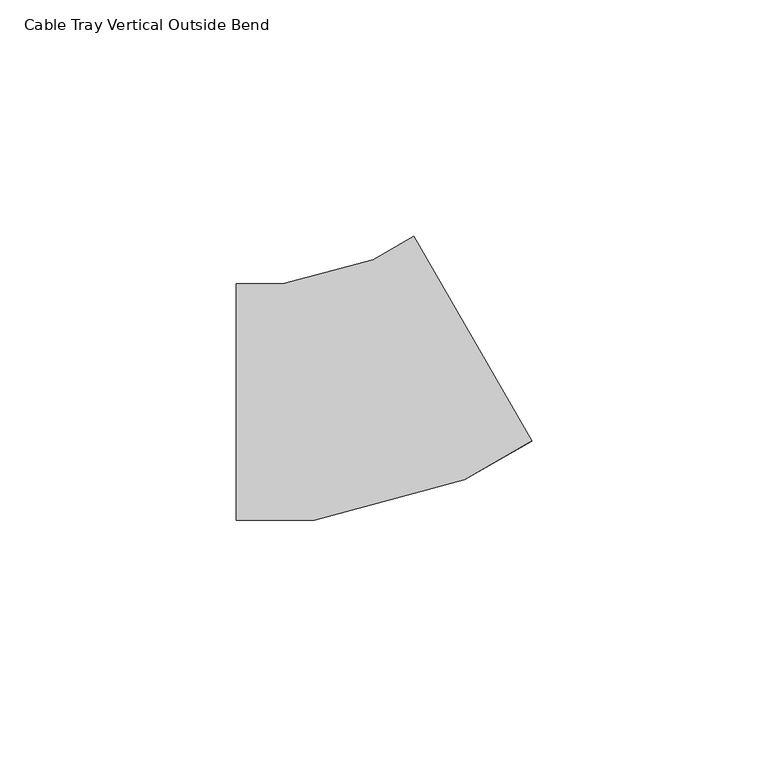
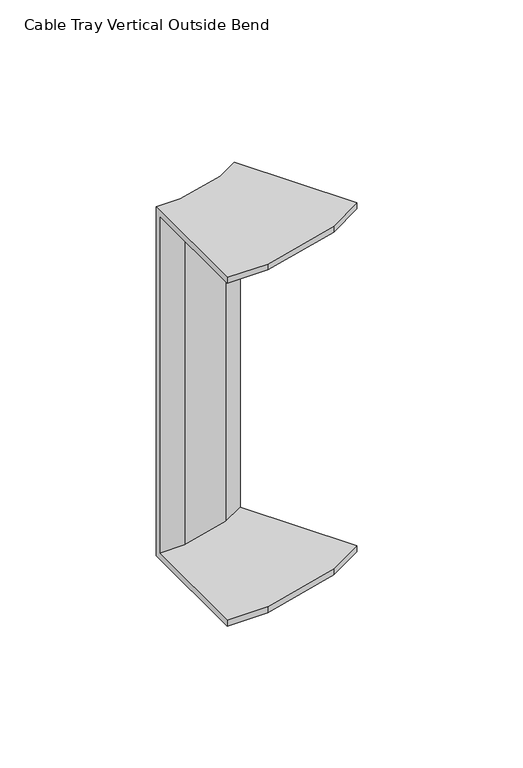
"""IFC4 building model written with IfcOpenShell, lengths in millimetres: cable carrier fitting geometry, Cable Tray Vertical Outside Bend : ELEC_ELV_CT_N2402."""

from ifc_helpers import new_model, si_unit, origin, place, context, project, spatial, faceted_brep, source, transform, mapped, element, save


def cable_tray_vertical_outside_bend_64dea95c(model_context):
    return source(origin(), model_context, "Body", "Brep", [
        faceted_brep([(-26.7949182, -25.0, 75.0), (-26.7949182, 25.0, 75.0), (-26.7949182, 25.0, -75.0), (-26.7949182, -25.0, -75.0), (-26.7949182, -25.0, -72.46), (-26.7949182, 22.46, -72.46), (-26.7949182, 22.46, 72.46), (-26.7949182, -25.0, 72.46), (35.7050797, -8.2531766, 75.0), (35.7050797, -8.2531766, 72.46), (11.9750805, 32.8483895, 72.46), (11.9750805, 32.8483895, -72.46), (35.7050797, -8.2531766, -72.46), (35.7050797, -8.2531766, -75.0), (10.7050805, 35.048094, -75.0), (10.7050805, 35.048094, 75.0), (-10.3383566, -25.0, 75.0), (21.4532792, -16.4814572, 75.0), (2.1540002, 30.1111257, 75.0), (-16.9209813, 25.0, 75.0), (-16.9209813, 25.0, -75.0), (2.1540002, 30.1111257, -75.0), (21.4532792, -16.4814572, -75.0), (-10.3383566, -25.0, -75.0), (-10.3383566, -25.0, -72.46), (21.4532792, -16.4814572, -72.46), (3.1344036, 27.7442225, -72.46), (-16.5865839, 22.46, -72.46), (-16.5865839, 22.46, 72.46), (3.1344036, 27.7442225, 72.46), (21.4532792, -16.4814572, 72.46), (-10.3383566, -25.0, 72.46)], [[[0, 1, 2, 3, 4, 5, 6, 7]], [[8, 9, 10, 11, 12, 13, 14, 15]], [[1, 0, 16, 17, 8, 15, 18, 19]], [[2, 1, 19, 20]], [[3, 2, 20, 21, 14, 13, 22, 23]], [[4, 3, 23, 24]], [[5, 4, 24, 25, 12, 11, 26, 27]], [[6, 5, 27, 28]], [[7, 6, 28, 29, 10, 9, 30, 31]], [[0, 7, 31, 16]], [[20, 19, 18, 21]], [[24, 23, 22, 25]], [[28, 27, 26, 29]], [[16, 31, 30, 17]], [[21, 18, 15, 14]], [[25, 22, 13, 12]], [[29, 26, 11, 10]], [[17, 30, 9, 8]]]),
    ])


if __name__ == "__main__":
    model = new_model("IFC4")
    model_context = context("Model", 3, world=origin())
    ifc_project = project(units=[si_unit("LENGTHUNIT", "METRE", prefix="MILLI")], contexts=[model_context])
    site = spatial("IfcSite", under=ifc_project)
    building = spatial("IfcBuilding", under=site)
    placement = place(None, origin())
    cable_tray_vertical_outside_bend_shape = cable_tray_vertical_outside_bend_64dea95c(model_context)
    element("IfcCableCarrierFitting", 1, ObjectType="Cable Tray Vertical Outside Bend : ELEC_ELV_CT_N2402", at=placement, inside=building, context=model_context, shape_type="MappedRepresentation", body=[
        mapped(cable_tray_vertical_outside_bend_shape, transform((0.0, 0.0, 0.0), x_axis=(1.0, 0.0, 0.0), y_axis=(0.0, 1.0, 0.0), z_axis=(0.0, 0.0, 1.0))),
    ])
    save(model, "model.ifc")
